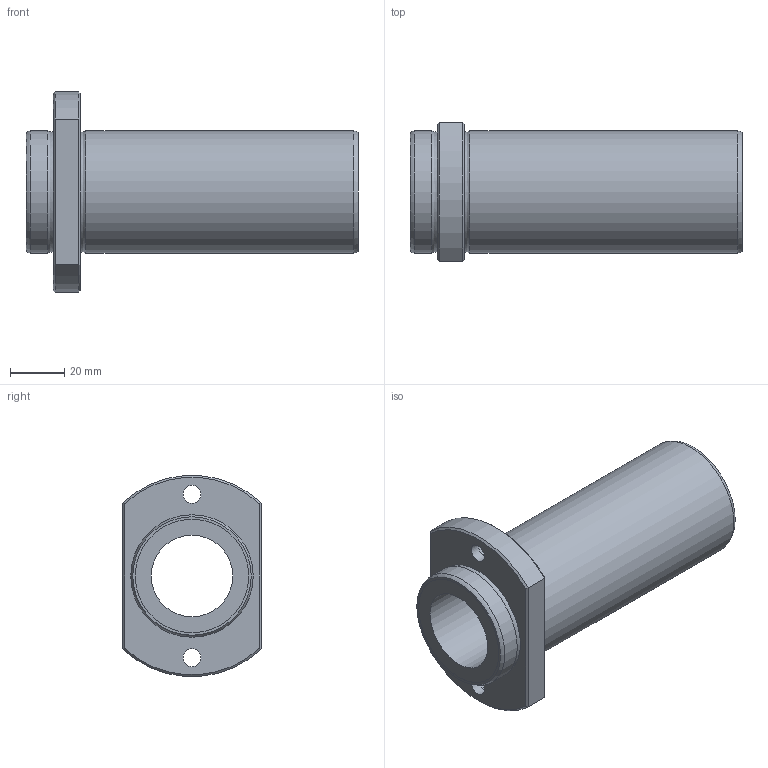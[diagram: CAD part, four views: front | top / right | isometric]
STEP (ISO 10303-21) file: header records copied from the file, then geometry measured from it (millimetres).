
FILE_DESCRIPTION((''),'2;1');
FILE_NAME('D:\製品 (図面)\カタログ用3D\リニアベアリング関連\STEP形式\LFDTB\LFDTB30.stp','2010-06-03T09:52:51',('Tsuchiya'),(''),'Autodesk Inventor 10','Autodesk Inventor 10','');
FILE_SCHEMA(('AUTOMOTIVE_DESIGN { 1 0 10303 214 1 1 1 1 }'));
Length unit declared in the file: millimetre
Products named in the file (1): LFDTB30
Bounding box: 122 x 51 x 73.74 mm (x, y, z)
Volume: 124320.8 mm3; surface area: 35268.9 mm2
Topology: 1 solids, 1 shells, 33 faces, 63 edges, 38 vertices
Faces by surface type: plane 12, bspline 8, cylinder 7, cone 4, torus 2
Full cylindrical faces by diameter (mm): 30 x1, 41.7 x2, 45 x2
Entity records: 977 total; most frequent: CARTESIAN_POINT 344, DIRECTION 124, ORIENTED_EDGE 100, EDGE_LOOP 58, AXIS2_PLACEMENT_3D 56, EDGE_CURVE 50, VERTEX_POINT 38, FACE_OUTER_BOUND 33
